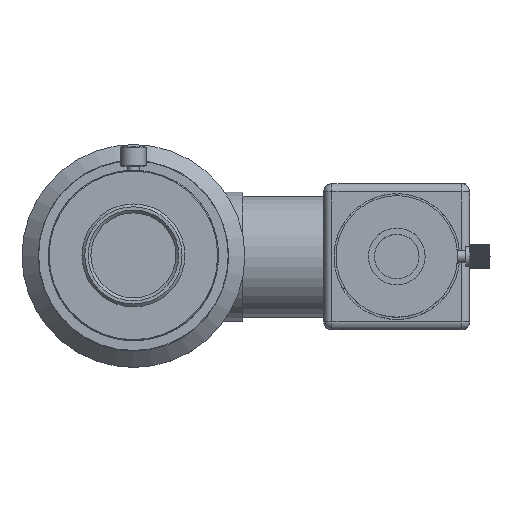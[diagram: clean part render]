
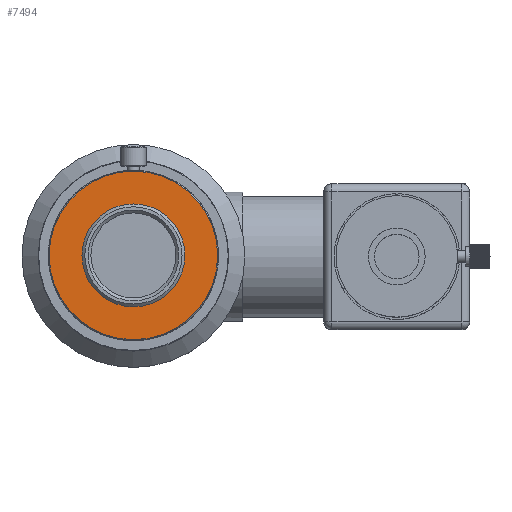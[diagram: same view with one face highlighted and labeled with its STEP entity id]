
A CAD part, top view. The second image highlights one B-rep face of the part: STEP entity #7494.
In plain terms, the highlighted planar face has unit normal (0, 0, 1).
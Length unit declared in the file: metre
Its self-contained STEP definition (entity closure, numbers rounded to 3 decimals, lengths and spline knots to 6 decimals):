
#7494=ADVANCED_FACE('42:31139',(#19588,#19589),#19590,.T.);
#11340=EDGE_CURVE('0:28746',#25103,#25103,#25104,.T.);
#13176=EDGE_CURVE('0:28761',#27201,#27201,#27202,.T.);
#19588=FACE_BOUND('',#34979,.T.);
#19589=FACE_OUTER_BOUND('',#34980,.T.);
#19590=PLANE('',#34981);
#25103=VERTEX_POINT('',#50178);
#25104=CIRCLE('',#50179,0.0208);
#27201=VERTEX_POINT('',#53920);
#27202=CIRCLE('',#53921,0.0121);
#34979=EDGE_LOOP('',(#69446));
#34980=EDGE_LOOP('',(#69447));
#34981=AXIS2_PLACEMENT_3D('',#69448,#69449,#69450);
#50178=CARTESIAN_POINT('',(0.0,-0.0208,0.221));
#50179=AXIS2_PLACEMENT_3D('',#73252,#73253,#73254);
#53920=CARTESIAN_POINT('',(0.0121,0.,0.221));
#53921=AXIS2_PLACEMENT_3D('',#75252,#75253,#75254);
#69446=ORIENTED_EDGE('',*,*,#13176,.F.);
#69447=ORIENTED_EDGE('',*,*,#11340,.T.);
#69448=CARTESIAN_POINT('',(0.0,0.,0.221));
#69449=DIRECTION('',(0.0,0.,1.0));
#69450=DIRECTION('',(0.0,-1.0,0.));
#73252=CARTESIAN_POINT('',(0.0,0.,0.221));
#73253=DIRECTION('',(0.0,0.,1.0));
#73254=DIRECTION('',(0.0,-1.0,0.));
#75252=CARTESIAN_POINT('',(0.0,0.,0.221));
#75253=DIRECTION('',(0.0,0.,1.0));
#75254=DIRECTION('',(1.0,0.0,-0.0));
